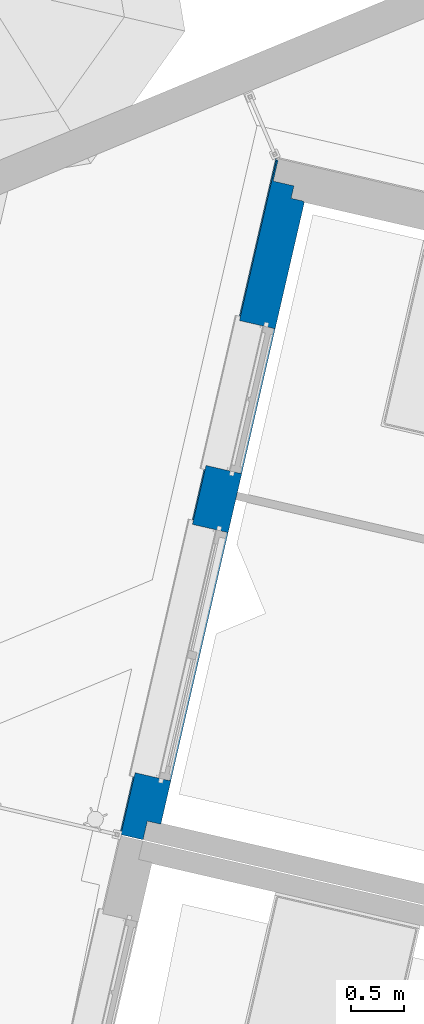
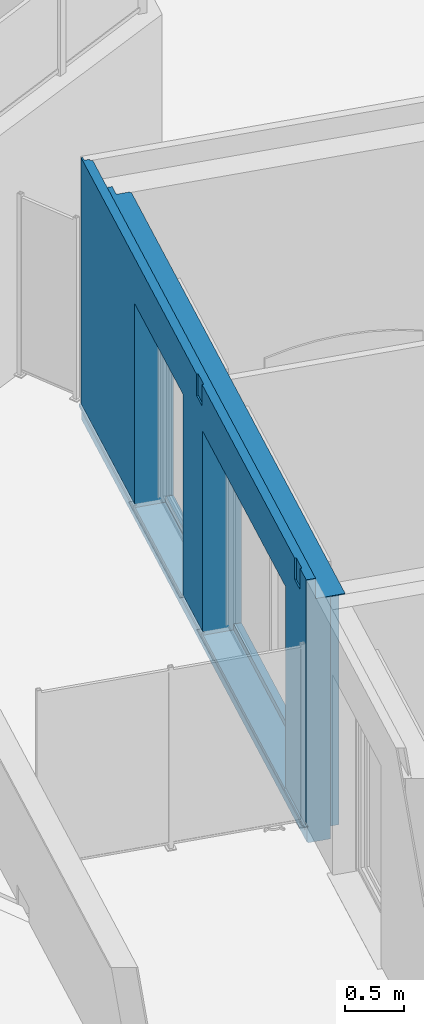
# One storey, part 21 of 119: 1 wall, 2 openings.
"""IFC2X3 building model written with IfcOpenShell, lengths in metres."""

from ifc_helpers import new_model, entity, si_unit, converted_unit, derived_unit, money_unit, direction, frame, origin_with_axes, place, context, subcontext, project, spatial, faceted_brep, material, material_list, type_object, element, save


model = new_model("IFC2X3")

# Units and contexts
model_context = context("Model", 3, precision=1e-05, world=origin_with_axes(), true_north=direction((0.0, 1.0)))
body_context = subcontext(model_context, "Body", "Model", "MODEL_VIEW")
ifc_project = project(units=[si_unit("LENGTHUNIT", "METRE"), si_unit("AREAUNIT", "SQUARE_METRE"), si_unit("VOLUMEUNIT", "CUBIC_METRE"), converted_unit("PLANEANGLEUNIT", "DEGREE", entity("IfcPlaneAngleMeasure", 0.0174532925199), si_unit("PLANEANGLEUNIT", "RADIAN"), dimensions=[0, 0, 0, 0, 0, 0, 0]), si_unit("SOLIDANGLEUNIT", "STERADIAN"), money_unit("EUR"), converted_unit("TIMEUNIT", "Year", entity("IfcTimeMeasure", 31556926.0), si_unit("TIMEUNIT", "SECOND"), dimensions=[0, 0, 1, 0, 0, 0, 0]), si_unit("MASSUNIT", "GRAM", prefix="KILO"), si_unit("THERMODYNAMICTEMPERATUREUNIT", "DEGREE_CELSIUS"), si_unit("LUMINOUSINTENSITYUNIT", "LUMEN"), si_unit("ENERGYUNIT", "JOULE", prefix="MEGA"), derived_unit("THERMALCONDUCTANCEUNIT", [(si_unit("POWERUNIT", "WATT"), 1), (si_unit("LENGTHUNIT", "METRE"), -1), (si_unit("THERMODYNAMICTEMPERATUREUNIT", "KELVIN"), -1)]), derived_unit("SPECIFICHEATCAPACITYUNIT", [(si_unit("ENERGYUNIT", "JOULE"), 1), (si_unit("MASSUNIT", "GRAM", prefix="KILO"), -1), (si_unit("THERMODYNAMICTEMPERATUREUNIT", "KELVIN"), -1)]), derived_unit("MASSDENSITYUNIT", [(si_unit("MASSUNIT", "GRAM", prefix="KILO"), 1), (si_unit("VOLUMEUNIT", "CUBIC_METRE"), -1)])], contexts=[model_context])

# Site, building, storey
site_placement = place(None, origin_with_axes())
site = spatial("IfcSite", under=ifc_project, at=site_placement, Name="Site", CompositionType="ELEMENT")
building_placement = place(site_placement, origin_with_axes())
building = spatial("IfcBuilding", under=site, at=building_placement, Name="Bâtiment", CompositionType="ELEMENT")
storey_placement = place(building_placement, origin_with_axes())
storey = spatial("IfcBuildingStorey", under=building, at=storey_placement, Name="Rez-de-chaussée", CompositionType="ELEMENT", Elevation=0.0)

# Wall, openings
ifc_material_1 = material(Name="Finition int - Plaque de plâtre")
ifc_material_2 = material(Name="Isolation - Polystyrène extrudé")
ifc_material_3 = material(Name="Bloc ELITHERM")
ifc_material_4 = material(Name="Isolation - Polystyrène expansé")
ifc_material_5 = material(Name="Mortier")
ifc_material_6 = material(Name="Béton cellulaire")
ifc_material_7 = material(Name="Etanchéité - Bitume")
ifc_material_8 = material(Name="Finition ext - Crépis")
ifc_material_9 = material(Name="Métal - Aluminium")
ifc_material_list = material_list([ifc_material_1, ifc_material_2, ifc_material_3, ifc_material_4, ifc_material_5, ifc_material_6, ifc_material_7, ifc_material_8, ifc_material_9])
wall_type = type_object("IfcWallType", Name="Mur ALKERN + planelle 21 TERRASSE RDC 356 x 2720", PredefinedType="USERDEFINED")
wall_placement = place(storey_placement, frame((-15.4433655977, 10.3820493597, 0.0), z_axis=(0.0, 0.0, 1.0), x_axis=(-0.224876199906, -0.974387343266, 0.0)))
wall = element("IfcWall", 1, at=wall_placement, inside=storey, type_object=wall_type, material=ifc_material_list, Name="Mue bloc ALKERN isolé", ObjectType="SOLIDWALL", context=body_context, shape_type="Brep", body=[
    faceted_brep([(6.36986443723, 0.344999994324, 0.169414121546), (6.36986443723, 0.344999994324, 0.160000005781), (6.36986443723, 0.344999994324, 0.133633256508), (6.36986443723, 0.344999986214, 0.0), (0.359999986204, 0.344999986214, 0.0), (0.359999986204, 0.344999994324, 0.133633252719), (0.359999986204, 0.344999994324, 0.160000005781), (0.359999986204, 0.344999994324, 0.169414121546), (0.359999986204, 0.344999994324, 0.176532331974), (0.359999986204, 0.344999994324, 0.207793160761), (0.359999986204, 0.344999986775, 2.50955001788), (6.54986443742, 0.344999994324, 2.50955002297), (6.54986443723, 0.344999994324, 2.5), (6.36986443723, 0.344999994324, 2.5), (6.36986443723, 0.344999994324, 0.207793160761), (6.36986443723, 0.344999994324, 0.176532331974), (5.95155419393, 0.344999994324, 2.25), (5.95155419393, 0.344999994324, 2.43), (3.55155419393, 0.344999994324, 2.43), (3.55155419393, 0.344999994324, 2.25), (3.55155419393, 0.344999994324, 0.2), (5.95155419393, 0.344999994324, 0.2), (2.98177863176, 0.344999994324, 2.25), (2.98177863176, 0.344999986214, 2.43), (1.58177863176, 0.344999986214, 2.43), (1.58177863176, 0.344999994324, 2.25), (1.58177863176, 0.344999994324, 0.2), (2.98177863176, 0.344999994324, 0.2), (6.36986443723, 0.335000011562, 0.169414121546), (6.36986443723, 0.335000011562, 0.160000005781), (6.36986443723, 0.335000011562, 0.133633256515), (6.36986443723, 0.335000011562, 0.0), (0.359999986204, 0.335000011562, 0.0), (0.359999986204, 0.335000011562, 0.133633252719), (0.359999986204, 0.335000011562, 0.160000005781), (0.359999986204, 0.335000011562, 0.169414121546), (0.359999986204, 0.335000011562, 0.176532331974), (0.359999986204, 0.335000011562, 0.207793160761), (0.359999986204, 0.335000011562, 2.50955001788), (6.54986443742, 0.335000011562, 2.50955002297), (6.54986443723, 0.335000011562, 2.5), (6.36986443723, 0.335000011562, 2.5), (6.36986443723, 0.335000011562, 0.207793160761), (6.36986443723, 0.335000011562, 0.176532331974), (5.95155419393, 0.335000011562, 2.25), (5.95155419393, 0.335000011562, 2.43), (3.55155419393, 0.335000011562, 2.43), (3.55155419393, 0.335000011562, 2.25), (3.55155419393, 0.335000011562, 0.2), (5.95155419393, 0.335000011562, 0.2), (2.98177863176, 0.335000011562, 2.25), (2.98177863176, 0.335000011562, 2.43), (1.58177863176, 0.335000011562, 2.43), (1.58177863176, 0.335000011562, 2.25), (1.58177863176, 0.335000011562, 0.2), (2.98177863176, 0.335000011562, 0.2)], [[[0, 1, 2, 3, 4, 5, 6, 7, 8, 9, 10, 11, 12, 13, 14, 15], [16, 17, 18, 19, 20, 21], [22, 23, 24, 25, 26, 27]], [[0, 28, 29, 1]], [[2, 1, 29, 30]], [[30, 31, 3, 2]], [[32, 4, 3, 31]], [[33, 5, 4, 32]], [[5, 33, 34, 6]], [[34, 35, 7, 6]], [[8, 7, 35, 36]], [[8, 36, 37, 9]], [[9, 37, 38, 10]], [[39, 11, 10, 38]], [[39, 40, 12, 11]], [[41, 13, 12, 40]], [[42, 14, 13, 41]], [[15, 14, 42, 43]], [[28, 0, 15, 43]], [[44, 45, 17, 16]], [[45, 46, 18, 17]], [[46, 47, 19, 18]], [[48, 20, 19, 47]], [[49, 21, 20, 48]], [[21, 49, 44, 16]], [[23, 22, 50, 51]], [[24, 23, 51, 52]], [[25, 24, 52, 53]], [[25, 53, 54, 26]], [[26, 54, 55, 27]], [[50, 22, 27, 55]], [[38, 37, 36, 35, 34, 33, 32, 31, 30, 29, 28, 43, 42, 41, 40, 39], [45, 44, 49, 48, 47, 46], [51, 50, 55, 54, 53, 52]]]),
    faceted_brep([(1.58177863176, 0.233560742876, 0.2), (1.58177863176, 0.274560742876, 0.2), (1.58177863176, 0.335000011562, 0.2), (1.58177863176, 0.335000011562, 2.25), (1.58177863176, 0.233560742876, 2.25), (1.58177863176, 0.21499997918, 0.2), (1.58177863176, 0.21499997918, 0.14), (1.58177863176, 0.274560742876, 0.14), (2.98177863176, 0.274560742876, 0.2), (2.98177863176, 0.335000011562, 0.2), (0.350000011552, 0.335000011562, 0.0), (0.350000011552, 0.335000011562, 0.133633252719), (0.350000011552, 0.335000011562, 0.160000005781), (0.350000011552, 0.335000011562, 0.169414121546), (0.350000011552, 0.335000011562, 0.176532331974), (0.350000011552, 0.335000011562, 0.207793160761), (0.350000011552, 0.335000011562, 2.50955001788), (6.54986443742, 0.335000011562, 2.50955002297), (6.54986443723, 0.335000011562, 2.5), (6.36986443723, 0.335000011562, 2.5), (6.36986443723, 0.335000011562, 0.207793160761), (6.36986443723, 0.335000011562, 0.176532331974), (6.36986443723, 0.335000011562, 0.169414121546), (6.36986443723, 0.335000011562, 0.160000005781), (6.36986443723, 0.335000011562, 0.133633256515), (6.36986443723, 0.335000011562, 0.0), (3.55155419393, 0.335000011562, 2.25), (3.55155419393, 0.335000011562, 0.2), (5.95155419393, 0.335000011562, 0.2), (5.95155419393, 0.335000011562, 2.25), (5.95155419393, 0.335000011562, 2.43), (3.55155419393, 0.335000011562, 2.43), (2.98177863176, 0.335000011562, 2.25), (2.98177863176, 0.335000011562, 2.43), (1.58177863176, 0.335000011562, 2.43), (1.58177863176, 0.21499997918, 2.43), (1.58177863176, 0.21499997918, 2.25), (0.350000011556, 0.21499997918, 0.160000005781), (0.350000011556, 0.21499997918, 0.133633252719), (0.350000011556, 0.21499997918, 0.0), (6.3698644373, 0.21499997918, 0.0), (6.3698644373, 0.21499997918, 0.133633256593), (6.3698644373, 0.21499997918, 0.160000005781), (6.3698644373, 0.21499997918, 0.169414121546), (6.3698644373, 0.21499997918, 0.176532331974), (6.3698644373, 0.21499997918, 0.207793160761), (6.3698644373, 0.21499997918, 2.5), (6.5498644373, 0.21499997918, 2.5), (6.54986443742, 0.21499997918, 2.50955002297), (0.350000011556, 0.21499997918, 2.50955001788), (0.350000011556, 0.21499997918, 0.207793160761), (0.350000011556, 0.21499997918, 0.176532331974), (0.350000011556, 0.21499997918, 0.169414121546), (5.95155419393, 0.21499997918, 2.43), (5.95155419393, 0.21499997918, 2.25), (5.95155419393, 0.21499997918, 0.2), (5.95155419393, 0.21499997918, 0.14), (3.55155419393, 0.21499997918, 0.14), (3.55155419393, 0.21499997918, 0.2), (3.55155419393, 0.21499997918, 2.25), (3.55155419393, 0.21499997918, 2.43), (2.98177863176, 0.21499997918, 2.43), (2.98177863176, 0.21499997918, 2.25), (2.98177863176, 0.21499997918, 0.2), (2.98177863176, 0.21499997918, 0.14), (2.98177863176, 0.274560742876, 0.14), (2.98177863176, 0.233560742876, 0.2), (2.98177863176, 0.233560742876, 2.25), (3.55155419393, 0.233560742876, 2.25), (3.55155419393, 0.233560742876, 0.2), (3.55155419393, 0.274560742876, 0.2), (5.95155419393, 0.274560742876, 0.2), (5.95155419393, 0.233560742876, 0.2), (5.95155419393, 0.233560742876, 2.25), (5.95155419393, 0.274560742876, 0.14), (3.55155419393, 0.274560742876, 0.14)], [[[0, 1, 2, 3, 4]], [[1, 0, 5, 6, 7]], [[1, 8, 9, 2]], [[10, 11, 12, 13, 14, 15, 16, 17, 18, 19, 20, 21, 22, 23, 24, 25], [26, 27, 28, 29, 30, 31], [3, 2, 9, 32, 33, 34]], [[35, 36, 4, 3, 34]], [[5, 0, 4, 36]], [[37, 38, 39, 40, 41, 42, 43, 44, 45, 46, 47, 48, 49, 50, 51, 52], [53, 54, 55, 56, 57, 58, 59, 60], [6, 5, 36, 35, 61, 62, 63, 64]], [[6, 64, 65, 7]], [[8, 1, 7, 65]], [[8, 66, 67, 32, 9]], [[38, 11, 10, 39]], [[12, 11, 38, 37]], [[13, 12, 37, 52]], [[13, 52, 51, 14]], [[14, 51, 50, 15]], [[15, 50, 49, 16]], [[48, 17, 16, 49]], [[48, 47, 18, 17]], [[46, 19, 18, 47]], [[45, 20, 19, 46]], [[21, 20, 45, 44]], [[22, 21, 44, 43]], [[42, 23, 22, 43]], [[41, 24, 23, 42]], [[41, 40, 25, 24]], [[10, 25, 40, 39]], [[26, 68, 69, 70, 27]], [[70, 71, 28, 27]], [[29, 28, 71, 72, 73]], [[30, 29, 73, 54, 53]], [[30, 53, 60, 31]], [[26, 31, 60, 59, 68]], [[67, 62, 61, 33, 32]], [[33, 61, 35, 34]], [[72, 55, 54, 73]], [[56, 55, 72, 71, 74]], [[57, 56, 74, 75]], [[57, 75, 70, 69, 58]], [[58, 69, 68, 59]], [[66, 63, 62, 67]], [[66, 8, 65, 64, 63]], [[71, 70, 75, 74]]]),
    faceted_brep([(1.58177863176, 0.0160453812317, 0.2), (1.58177863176, 0.214999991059, 0.2), (1.58177863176, 0.214999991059, 2.25), (1.58177863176, 0.203560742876, 2.25), (1.58177863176, 0.015, 2.25), (1.58177863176, 0.015, 0.207793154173), (1.58177863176, 0.0160453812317, 0.207793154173), (1.58177863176, 0.214999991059, 0.14), (1.58177863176, 0.0160453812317, 0.169727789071), (1.58177863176, 0.015, 0.169414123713), (1.58177863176, 0.0150000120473, 0.160000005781), (1.58177863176, 0.015, 0.14), (6.54986443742, 0.214999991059, 2.50955002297), (6.54986444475, 0.214999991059, 2.5), (6.54986444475, 0.214999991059, 0.0), (0.229999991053, 0.214999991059, 0.0), (0.229999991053, 0.214999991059, 0.133633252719), (0.229999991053, 0.214999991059, 0.160000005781), (0.229999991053, 0.214999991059, 0.169414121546), (0.229999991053, 0.214999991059, 0.176532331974), (0.229999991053, 0.214999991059, 0.207793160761), (0.229999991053, 0.214999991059, 2.50955001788), (3.55155419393, 0.214999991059, 0.14), (5.95155419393, 0.214999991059, 0.14), (5.95155419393, 0.214999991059, 0.2), (5.95155419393, 0.214999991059, 2.25), (5.95155419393, 0.214999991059, 2.43), (3.55155419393, 0.214999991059, 2.43), (3.55155419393, 0.214999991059, 2.25), (3.55155419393, 0.214999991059, 0.2), (2.98177863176, 0.214999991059, 0.14), (2.98177863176, 0.214999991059, 0.2), (2.98177863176, 0.214999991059, 2.25), (2.98177863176, 0.214999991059, 2.43), (1.58177863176, 0.214999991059, 2.43), (1.58177863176, 0.203560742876, 2.43), (2.98177863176, 0.203560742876, 2.25), (2.98177863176, 0.015, 2.25), (6.54986444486, 0.015, 2.5), (6.54986443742, 0.015, 2.50955001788), (0.229999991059, 0.015, 2.50955001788), (0.229999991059, 0.015, 0.207793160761), (2.98177863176, 0.015, 0.20779314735), (3.55155419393, 0.015, 0.207793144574), (3.55155419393, 0.015, 2.25), (5.95155419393, 0.015, 2.25), (5.95155419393, 0.015, 0.207793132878), (6.54986444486, 0.015, 0.207793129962), (0.229999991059, 0.0160453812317, 0.207793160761), (0.229999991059, 0.0160453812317, 0.176532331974), (0.229999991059, 0.0160453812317, 0.169727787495), (0.229999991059, 0.015, 0.169414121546), (0.229999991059, 0.0150000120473, 0.160000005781), (0.229999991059, 0.015, 0.133633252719), (0.229999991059, 0.015, 0.0), (6.54986444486, 0.015, 0.0), (6.54986444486, 0.0150000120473, 0.160000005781), (5.95155419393, 0.0150000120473, 0.160000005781), (5.95155419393, 0.0150000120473, 0.14), (3.55155419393, 0.0150000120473, 0.14), (3.55155419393, 0.0150000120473, 0.160000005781), (2.98177863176, 0.0150000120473, 0.160000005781), (2.98177863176, 0.015, 0.14), (6.54986443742, 0.0829999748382, 2.50955002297), (6.54986444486, 0.0160453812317, 0.207793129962), (6.54986444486, 0.0160453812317, 0.169727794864), (6.54986444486, 0.015, 0.169414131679), (0.229999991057, 0.0829999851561, 2.50955001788), (5.95155419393, 0.015, 0.169414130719), (5.95155419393, 0.0160453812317, 0.169727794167), (5.95155419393, 0.0160453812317, 0.2), (5.95155419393, 0.203560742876, 2.25), (5.95155419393, 0.0160453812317, 0.207793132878), (5.95155419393, 0.203560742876, 2.43), (3.55155419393, 0.203560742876, 2.43), (3.55155419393, 0.203560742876, 2.25), (3.55155419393, 0.0160453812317, 0.207793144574), (3.55155419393, 0.0160453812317, 0.2), (3.55155419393, 0.0160453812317, 0.169727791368), (3.55155419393, 0.015, 0.169414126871), (2.98177863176, 0.0160453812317, 0.2), (2.98177863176, 0.015, 0.169414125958), (2.98177863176, 0.0160453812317, 0.169727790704), (2.98177863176, 0.0160453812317, 0.20779314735), (2.98177863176, 0.203560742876, 2.43)], [[[0, 1, 2, 3, 4, 5, 6]], [[7, 1, 0, 8, 9, 10, 11]], [[12, 13, 14, 15, 16, 17, 18, 19, 20, 21], [22, 23, 24, 25, 26, 27, 28, 29], [30, 31, 32, 33, 34, 2, 1, 7]], [[34, 35, 3, 2]], [[36, 37, 4, 3]], [[38, 39, 40, 41, 5, 4, 37, 42, 43, 44, 45, 46, 47]], [[41, 48, 6, 5]], [[8, 0, 6, 48, 49, 50]], [[9, 8, 50, 51]], [[10, 9, 51, 52]], [[11, 10, 52, 53, 54, 55, 56, 57, 58, 59, 60, 61, 62]], [[30, 7, 11, 62]], [[39, 38, 13, 12, 63]], [[14, 13, 38, 47, 64, 65, 66, 56, 55]], [[54, 15, 14, 55]], [[53, 16, 15, 54]], [[53, 52, 17, 16]], [[18, 17, 52, 51]], [[49, 19, 18, 51, 50]], [[19, 49, 48, 20]], [[67, 21, 20, 48, 41, 40]], [[63, 12, 21, 67]], [[58, 23, 22, 59]], [[68, 69, 70, 24, 23, 58, 57]], [[71, 25, 24, 70, 72, 46, 45]], [[26, 25, 71, 73]], [[27, 26, 73, 74]], [[28, 27, 74, 75]], [[43, 76, 77, 29, 28, 75, 44]], [[60, 59, 22, 29, 77, 78, 79]], [[80, 31, 30, 62, 61, 81, 82]], [[31, 80, 83, 42, 37, 36, 32]], [[32, 36, 84, 33]], [[33, 84, 35, 34]], [[3, 35, 84, 36]], [[39, 63, 67, 40]], [[76, 43, 42, 83]], [[75, 71, 45, 44]], [[72, 64, 47, 46]], [[66, 68, 57, 56]], [[81, 61, 60, 79]], [[69, 65, 64, 72, 70]], [[65, 69, 68, 66]], [[71, 75, 74, 73]], [[80, 82, 78, 77, 76, 83]], [[82, 81, 79, 78]]]),
    faceted_brep([(0.0980000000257, 0.0830000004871, 2.51999999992), (0.0980000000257, 0.0830000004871, 2.72), (6.54986443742, 0.0830000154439, 2.72000000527), (6.54986443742, 0.0830000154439, 2.51999998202), (0.0980000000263, 0.0630000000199, 2.72), (0.0980000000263, 0.0630000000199, 2.51999999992), (6.54986443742, 0.0630000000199, 2.72000000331), (6.54986443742, 0.0630000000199, 2.51999999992)], [[[0, 1, 2, 3]], [[4, 1, 0, 5]], [[1, 4, 6, 2]], [[7, 3, 2, 6]], [[5, 0, 3, 7]], [[4, 5, 7, 6]]]),
    faceted_brep([(0.0979999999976, 0.0829999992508, 2.50955), (0.0979999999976, 0.0830000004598, 2.52), (6.54986443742, 0.0830000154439, 2.51999998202), (6.54986443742, 0.0829999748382, 2.50955002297), (0.0979999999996, 0.015, 2.52), (0.0979999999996, 0.015, 2.50955), (6.54986443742, 0.015, 2.52), (6.54986443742, 0.015, 2.50955)], [[[0, 1, 2, 3]], [[4, 1, 0, 5]], [[1, 4, 6, 2]], [[7, 3, 2, 6]], [[5, 0, 3, 7]], [[4, 5, 7, 6]]]),
    faceted_brep([(0.0780000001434, 0.0630000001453, 2.51999999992), (0.0780000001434, 0.0630000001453, 2.72), (6.54986443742, 0.0630000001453, 2.72000000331), (6.54986443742, 0.0630000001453, 2.51999999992), (0.0780000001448, 0.015, 2.72), (0.0780000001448, 0.015, 2.51999999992), (6.54986443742, 0.015, 2.71999999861), (6.54986443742, 0.015, 2.51999999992)], [[[0, 1, 2, 3]], [[4, 1, 0, 5]], [[1, 4, 6, 2]], [[7, 3, 2, 6]], [[5, 0, 3, 7]], [[4, 5, 7, 6]]]),
    faceted_brep([(1.58177863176, 0.005, 0.160000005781), (1.58177863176, 0.0150000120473, 0.160000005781), (0.0300000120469, 0.0150000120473, 0.160000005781), (0.0300000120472, 0.005, 0.160000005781), (1.58177863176, 0.0150000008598, 0.14), (1.58177863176, 0.005, 0.14), (2.98177863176, 0.0150000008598, 0.14), (2.98177863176, 0.0150000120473, 0.160000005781), (3.55155419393, 0.0150000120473, 0.160000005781), (3.55155419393, 0.0150000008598, 0.14), (5.95155419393, 0.0150000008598, 0.14), (5.95155419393, 0.0150000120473, 0.160000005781), (6.54986444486, 0.0150000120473, 0.160000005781), (6.54986444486, 0.0150000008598, 0.01), (0.0300000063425, 0.0149999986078, 0.01), (0.0300000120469, 0.0150000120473, 0.133633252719), (0.0300000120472, 0.005, 0.133633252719), (0.0300000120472, 0.005, 0.01), (6.54986444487, 0.005, 0.01), (6.54986444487, 0.005, 0.160000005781), (5.95155419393, 0.005, 0.160000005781), (5.95155419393, 0.005, 0.14), (3.55155419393, 0.00500000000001, 0.14), (3.55155419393, 0.005, 0.160000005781), (2.98177863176, 0.005, 0.160000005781), (2.98177863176, 0.005, 0.14)], [[[0, 1, 2, 3]], [[4, 1, 0, 5]], [[6, 7, 8, 9, 10, 11, 12, 13, 14, 15, 2, 1, 4]], [[2, 15, 16, 3]], [[5, 0, 3, 16, 17, 18, 19, 20, 21, 22, 23, 24, 25]], [[6, 4, 5, 25]], [[24, 7, 6, 25]], [[7, 24, 23, 8]], [[8, 23, 22, 9]], [[9, 22, 21, 10]], [[11, 10, 21, 20]], [[20, 19, 12, 11]], [[12, 19, 18, 13]], [[13, 18, 17, 14]], [[16, 15, 14, 17]]]),
    faceted_brep([(1.58177863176, 0.0150000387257, 0.2), (1.58177863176, 0.0150000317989, 0.176532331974), (0.0300000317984, 0.0150000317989, 0.176532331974), (0.0300000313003, 0.0150000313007, 0.207793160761), (0.0299999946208, 0.0149999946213, 2.50955), (0.0299999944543, 0.0149999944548, 2.51999999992), (0.0299999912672, 0.0149999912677, 2.72), (3.37372900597, 0.0150000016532, 2.72), (3.37372900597, 0.0150000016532, 2.51999999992), (3.37372900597, 0.0150000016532, 2.50955), (3.37372900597, 0.0150000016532, 2.50872065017), (3.37372900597, 0.0150000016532, 2.5), (3.38872900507, 0.0150000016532, 2.5), (3.40846998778, 0.0150000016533, 2.5), (3.53372900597, 0.0150000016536, 2.5), (3.53372900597, 0.0150000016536, 2.50872065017), (3.53372900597, 0.0150000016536, 2.50955), (3.53372900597, 0.0150000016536, 2.51999999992), (3.53372900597, 0.0150000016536, 2.72), (6.21372900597, 0.0149999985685, 2.72), (6.21372900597, 0.0149999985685, 2.51999999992), (6.21372900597, 0.0149999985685, 2.50955), (6.21372900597, 0.0149999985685, 2.50872065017), (6.21372900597, 0.0149999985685, 2.5), (6.33898802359, 0.0149999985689, 2.5), (6.35872900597, 0.0149999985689, 2.5), (6.37372900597, 0.014999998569, 2.5), (6.37372900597, 0.014999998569, 2.50872065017), (6.37372900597, 0.014999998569, 2.50955), (6.37372900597, 0.014999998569, 2.51999999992), (6.37372900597, 0.014999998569, 2.72), (6.54986443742, 0.0149999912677, 2.71999999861), (6.54986444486, 0.0149999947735, 2.5), (6.54986444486, 0.0150000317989, 0.176532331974), (5.95155419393, 0.0150000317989, 0.176532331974), (5.95155419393, 0.0150000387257, 0.2), (5.95155419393, 0.0150000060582, 2.25), (3.55155419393, 0.0150000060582, 2.25), (3.55155419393, 0.0150000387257, 0.2), (3.55155419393, 0.0150000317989, 0.176532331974), (2.98177863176, 0.0150000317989, 0.176532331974), (2.98177863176, 0.0150000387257, 0.2), (2.98177863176, 0.0150000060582, 2.25), (1.58177863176, 0.0150000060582, 2.25), (1.58177863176, 2.8146551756e-09, 0.2), (1.58177863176, 3.18862092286e-09, 0.176532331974), (0.0300000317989, 3.18862092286e-09, 0.176532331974), (0.0300000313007, 2.69046651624e-09, 0.207793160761), (0.0299999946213, -3.39889680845e-08, 2.50955), (0.0299999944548, -3.41554944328e-08, 2.51999999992), (0.0299999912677, 2.80699907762e-09, 2.72), (3.37372900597, -7.00866920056e-09, 2.72), (3.37372900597, -3.41554944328e-08, 2.51999999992), (3.37372900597, -3.39889680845e-08, 2.50955), (3.37372900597, -3.39757519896e-08, 2.50872065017), (3.37372900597, -3.38367875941e-08, 2.5), (3.38872900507, -3.38367875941e-08, 2.5), (3.40846998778, -3.38367875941e-08, 2.5), (3.53372900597, -3.38367875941e-08, 2.5), (3.53372900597, -3.39757519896e-08, 2.50872065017), (3.53372900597, -3.39889716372e-08, 2.50955), (3.53372900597, -3.41554944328e-08, 2.51999999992), (3.53372900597, -7.47835571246e-09, 2.72), (6.21372900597, -1.53456234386e-08, 2.72), (6.21372900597, -3.41554944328e-08, 2.51999999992), (6.21372900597, -3.39889680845e-08, 2.50955), (6.21372900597, -3.39757555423e-08, 2.50872065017), (6.21372900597, -3.38367875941e-08, 2.5), (6.33898802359, -3.38367911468e-08, 2.5), (6.35872900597, -3.38367875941e-08, 2.5), (6.37372900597, -3.38367875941e-08, 2.5), (6.37372900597, -3.39757555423e-08, 2.50872065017), (6.37372900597, -3.39889680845e-08, 2.50955), (6.37372900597, -3.415549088e-08, 2.51999999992), (6.37372900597, -1.58153028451e-08, 2.72), (6.54986443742, -1.63323612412e-08, 2.71999999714), (6.54986444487, -1.63323576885e-08, 2.5), (6.54986444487, 3.18862092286e-09, 0.176532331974), (5.95155419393, 3.18862092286e-09, 0.176532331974), (5.95155419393, 2.81465162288e-09, 0.2), (5.95155419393, -2.98529378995e-08, 2.25), (3.55155419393, -2.98529343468e-08, 2.25), (3.55155419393, 2.81465162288e-09, 0.2), (3.55155419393, 3.18862092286e-09, 0.176532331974), (2.98177863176, 3.18861737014e-09, 0.176532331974), (2.98177863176, 2.81465162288e-09, 0.2), (2.98177863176, -2.98529343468e-08, 2.25), (1.58177863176, -2.98529343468e-08, 2.25)], [[[0, 1, 2, 3, 4, 5, 6, 7, 8, 9, 10, 11, 12, 13, 14, 15, 16, 17, 18, 19, 20, 21, 22, 23, 24, 25, 26, 27, 28, 29, 30, 31, 32, 33, 34, 35, 36, 37, 38, 39, 40, 41, 42, 43]], [[1, 0, 44, 45]], [[1, 45, 46, 2]], [[47, 3, 2, 46]], [[48, 4, 3, 47]], [[49, 5, 4, 48]], [[50, 6, 5, 49]], [[51, 7, 6, 50]], [[8, 7, 51, 52]], [[8, 52, 53, 9]], [[9, 53, 54, 10]], [[10, 54, 55, 11]], [[56, 12, 11, 55]], [[57, 13, 12, 56]], [[14, 13, 57, 58]], [[59, 15, 14, 58]], [[60, 16, 15, 59]], [[61, 17, 16, 60]], [[62, 18, 17, 61]], [[63, 19, 18, 62]], [[20, 19, 63, 64]], [[20, 64, 65, 21]], [[21, 65, 66, 22]], [[22, 66, 67, 23]], [[68, 24, 23, 67]], [[69, 25, 24, 68]], [[26, 25, 69, 70]], [[71, 27, 26, 70]], [[72, 28, 27, 71]], [[73, 29, 28, 72]], [[74, 30, 29, 73]], [[30, 74, 75, 31]], [[75, 76, 32, 31]], [[77, 33, 32, 76]], [[33, 77, 78, 34]], [[34, 78, 79, 35]], [[80, 36, 35, 79]], [[81, 37, 36, 80]], [[37, 81, 82, 38]], [[82, 83, 39, 38]], [[84, 40, 39, 83]], [[85, 41, 40, 84]], [[41, 85, 86, 42]], [[42, 86, 87, 43]], [[44, 0, 43, 87]], [[45, 44, 87, 86, 85, 84, 83, 82, 81, 80, 79, 78, 77, 76, 75, 74, 73, 72, 71, 70, 69, 68, 67, 66, 65, 64, 63, 62, 61, 60, 59, 58, 57, 56, 55, 54, 53, 52, 51, 50, 49, 48, 47, 46]]]),
    faceted_brep([(1.58177863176, 0.0150000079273, 0.2), (1.58177863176, 0.0160453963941, 0.2), (1.58177863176, 0.0160453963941, 0.207793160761), (1.58177863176, 0.015, 0.207793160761), (1.58177863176, 0.0160453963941, 0.169727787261), (1.58177863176, 0.0150000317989, 0.176532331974), (1.58177863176, 0.015, 0.170774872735), (1.58177863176, -0.0114392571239, 0.162931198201), (1.58177863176, -0.0114392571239, 0.14), (1.58177863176, -0.0102051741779, 0.14), (1.58177863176, -0.0102051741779, 0.161852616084), (1.58177863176, 0.015, 0.169414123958), (0.0310453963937, 0.0160453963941, 0.169727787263), (0.0310453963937, 0.0160453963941, 0.207793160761), (0.0310453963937, 0.015, 0.207793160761), (0.0310453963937, 0.0150000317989, 0.176532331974), (0.0310453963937, 0.015, 0.170774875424), (0.0310453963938, 0.011470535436, 0.169727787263), (0.0299999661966, 0.01041327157, 0.169414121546), (0.0083901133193, -0.0114392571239, 0.162931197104), (0.00479482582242, -0.0114392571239, 0.161852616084), (0.00479482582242, -0.0114392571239, 0.133633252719), (6.54986444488, -0.0114392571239, 0.133633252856), (6.54986444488, -0.0114392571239, 0.162931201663), (5.95155419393, -0.0114392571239, 0.162931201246), (5.95155419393, -0.0114392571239, 0.14), (3.55155419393, -0.0114392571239, 0.14), (3.55155419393, -0.0114392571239, 0.162931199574), (2.98177863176, -0.0114392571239, 0.162931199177), (2.98177863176, -0.0114392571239, 0.14), (2.98177863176, -0.0102051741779, 0.14), (2.98177863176, -0.0102051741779, 0.161852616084), (3.55155419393, -0.0102051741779, 0.161852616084), (3.55155419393, -0.0102051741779, 0.14), (5.95155419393, -0.0102051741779, 0.14), (5.95155419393, -0.0102051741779, 0.161852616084), (6.54986444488, -0.0102051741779, 0.161852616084), (6.54986444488, -0.0102051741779, 0.133633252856), (0.00479482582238, -0.0102051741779, 0.133633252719), (0.00479482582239, -0.0102051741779, 0.161852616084), (0.0299999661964, 0.015, 0.169414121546), (6.54986444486, 0.0160453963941, 0.207793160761), (6.54986444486, 0.015, 0.207793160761), (6.54986444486, 0.0150000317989, 0.176532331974), (6.54986444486, 0.015, 0.17077486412), (6.54986444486, 0.015, 0.169414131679), (6.54986444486, 0.0160453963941, 0.169727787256), (5.95155419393, 0.015, 0.170774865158), (5.95155419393, 0.0150000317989, 0.176532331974), (5.95155419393, 0.0150000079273, 0.2), (5.95155419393, 0.0160453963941, 0.2), (5.95155419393, 0.0160453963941, 0.169727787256), (5.95155419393, 0.015, 0.169414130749), (3.55155419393, 0.015, 0.17077486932), (3.55155419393, 0.015, 0.169414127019), (3.55155419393, 0.0160453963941, 0.169727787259), (3.55155419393, 0.0160453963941, 0.2), (3.55155419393, 0.0150000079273, 0.2), (3.55155419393, 0.0150000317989, 0.176532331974), (2.98177863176, 0.015, 0.170774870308), (2.98177863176, 0.0150000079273, 0.2), (2.98177863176, 0.0160453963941, 0.2), (2.98177863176, 0.0160453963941, 0.16972778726), (2.98177863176, 0.015, 0.169414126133), (2.98177863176, 0.0150000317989, 0.176532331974), (5.95155419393, 0.0160453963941, 0.207793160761), (5.95155419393, 0.015, 0.207793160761), (2.98177863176, 0.0160453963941, 0.207793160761), (3.55155419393, 0.0160453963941, 0.207793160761), (3.55155419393, 0.015, 0.207793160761), (2.98177863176, 0.015, 0.207793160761)], [[[0, 1, 2, 3]], [[4, 1, 0, 5, 6, 7, 8, 9, 10, 11]], [[1, 4, 12, 13, 2]], [[2, 13, 14, 3]], [[5, 0, 3, 14, 15]], [[6, 5, 15, 16]], [[7, 6, 16, 17, 18, 19]], [[8, 7, 19, 20, 21, 22, 23, 24, 25, 26, 27, 28, 29]], [[30, 9, 8, 29]], [[30, 31, 32, 33, 34, 35, 36, 37, 38, 39, 10, 9]], [[11, 10, 39, 40]], [[4, 11, 40, 12]], [[15, 14, 13, 12, 17, 16]], [[18, 17, 12, 40]], [[40, 39, 20, 19, 18]], [[39, 38, 21, 20]], [[21, 38, 37, 22]], [[41, 42, 43, 44, 23, 22, 37, 36, 45, 46]], [[23, 44, 47, 24]], [[35, 34, 25, 24, 47, 48, 49, 50, 51, 52]], [[26, 25, 34, 33]], [[53, 27, 26, 33, 32, 54, 55, 56, 57, 58]], [[59, 28, 27, 53]], [[60, 61, 62, 63, 31, 30, 29, 28, 59, 64]], [[31, 63, 54, 32]], [[45, 36, 35, 52]], [[41, 65, 66, 42]], [[66, 49, 48, 43, 42]], [[44, 43, 48, 47]], [[46, 45, 52, 51]], [[46, 51, 50, 65, 41]], [[66, 65, 50, 49]], [[63, 62, 55, 54]], [[62, 61, 67, 68, 56, 55]], [[68, 69, 57, 56]], [[60, 64, 58, 57, 69, 70]], [[64, 59, 53, 58]], [[61, 60, 70, 67]], [[70, 69, 68, 67]]]),
])
opening_1_placement = place(wall_placement, frame((4.75155419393, 0.0, 0.2), z_axis=(0.0, 0.0, 1.0), x_axis=(1.0, 0.0, 0.0)))
element("IfcOpeningElement", 2, at=opening_1_placement, cuts=wall, Name="MEN 12", context=body_context, shape_type="Brep", body=[
    faceted_brep([(-1.2, 0.834999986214, 0.0), (1.2, 0.834999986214, 0.0), (1.2, 0.233560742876, 0.0), (-1.2, 0.233560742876, 0.0), (-1.2, 0.834999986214, 2.05), (1.2, 0.834999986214, 2.05), (1.2, 0.233560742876, 2.05), (-1.2, 0.233560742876, 2.05)], [[[0, 1, 2, 3]], [[0, 4, 5, 1]], [[1, 5, 6, 2]], [[3, 2, 6, 7]], [[4, 0, 3, 7]], [[5, 4, 7, 6]]]),
    faceted_brep([(-1.2, -0.367878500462, 0.0), (-1.2, -0.367878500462, 2.05), (-1.2, 0.233560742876, 2.05), (-1.2, 0.233560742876, 0.0), (1.2, -0.367878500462, 0.0), (1.2, -0.367878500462, 2.05), (1.2, 0.233560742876, 2.05), (1.2, 0.233560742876, 0.0)], [[[0, 1, 2, 3]], [[0, 4, 5, 1]], [[1, 5, 6, 2]], [[3, 2, 6, 7]], [[4, 0, 3, 7]], [[5, 4, 7, 6]]]),
    faceted_brep([(-1.2, -0.367878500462, 0.0), (-1.2, -0.367878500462, 2.05), (-1.2, 0.233560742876, 2.05), (-1.2, 0.233560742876, 0.0), (1.2, -0.367878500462, 0.0), (1.2, -0.367878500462, 2.05), (1.2, 0.233560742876, 2.05), (1.2, 0.233560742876, 0.0)], [[[0, 1, 2, 3]], [[0, 4, 5, 1]], [[1, 5, 6, 2]], [[3, 2, 6, 7]], [[4, 0, 3, 7]], [[5, 4, 7, 6]]]),
    faceted_brep([(-1.2, 0.804999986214, 2.05), (1.2, 0.804999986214, 2.05), (1.2, 0.203560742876, 2.05), (-1.2, 0.203560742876, 2.05), (-1.2, 0.804999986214, 2.23), (1.2, 0.804999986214, 2.23), (1.2, 0.203560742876, 2.23), (-1.2, 0.203560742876, 2.23)], [[[0, 1, 2, 3]], [[0, 4, 5, 1]], [[1, 5, 6, 2]], [[3, 2, 6, 7]], [[4, 0, 3, 7]], [[5, 4, 7, 6]]]),
    faceted_brep([(-1.2, -0.326878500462, 0.0), (1.2, -0.326878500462, 0.0), (1.2, 0.274560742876, 0.0), (-1.2, 0.274560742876, 0.0), (-1.2, -0.326878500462, -0.06), (1.2, -0.326878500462, -0.06), (1.2, 0.274560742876, -0.06), (-1.2, 0.274560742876, -0.06)], [[[0, 1, 2, 3]], [[0, 4, 5, 1]], [[1, 5, 6, 2]], [[3, 2, 6, 7]], [[4, 0, 3, 7]], [[5, 4, 7, 6]]]),
])
opening_2_placement = place(wall_placement, frame((2.28177863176, 0.0, 0.2), z_axis=(0.0, 0.0, 1.0), x_axis=(1.0, 0.0, 0.0)))
element("IfcOpeningElement", 3, at=opening_2_placement, cuts=wall, Name="MEN 11", context=body_context, shape_type="Brep", body=[
    faceted_brep([(0.7, 0.233560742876, 0.0), (-0.7, 0.233560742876, 0.0), (-0.7, 0.834999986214, 0.0), (0.7, 0.834999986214, 0.0), (0.7, 0.233560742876, 2.05), (-0.7, 0.233560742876, 2.05), (-0.7, 0.834999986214, 2.05), (0.7, 0.834999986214, 2.05)], [[[0, 1, 2, 3]], [[0, 4, 5, 1]], [[1, 5, 6, 2]], [[3, 2, 6, 7]], [[4, 0, 3, 7]], [[5, 4, 7, 6]]]),
    faceted_brep([(0.7, 0.233560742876, 0.0), (0.7, 0.233560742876, 2.05), (0.7, -0.367878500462, 2.05), (0.7, -0.367878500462, 0.0), (-0.7, 0.233560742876, 0.0), (-0.7, 0.233560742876, 2.05), (-0.7, -0.367878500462, 2.05), (-0.7, -0.367878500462, 0.0)], [[[0, 1, 2, 3]], [[0, 4, 5, 1]], [[1, 5, 6, 2]], [[3, 2, 6, 7]], [[4, 0, 3, 7]], [[5, 4, 7, 6]]]),
    faceted_brep([(0.7, 0.233560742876, 0.0), (0.7, 0.233560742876, 2.05), (0.7, -0.367878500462, 2.05), (0.7, -0.367878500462, 0.0), (-0.7, 0.233560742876, 0.0), (-0.7, 0.233560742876, 2.05), (-0.7, -0.367878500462, 2.05), (-0.7, -0.367878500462, 0.0)], [[[0, 1, 2, 3]], [[0, 4, 5, 1]], [[1, 5, 6, 2]], [[3, 2, 6, 7]], [[4, 0, 3, 7]], [[5, 4, 7, 6]]]),
    faceted_brep([(0.7, 0.203560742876, 2.05), (-0.7, 0.203560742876, 2.05), (-0.7, 0.804999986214, 2.05), (0.7, 0.804999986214, 2.05), (0.7, 0.203560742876, 2.23), (-0.7, 0.203560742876, 2.23), (-0.7, 0.804999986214, 2.23), (0.7, 0.804999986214, 2.23)], [[[0, 1, 2, 3]], [[0, 4, 5, 1]], [[1, 5, 6, 2]], [[3, 2, 6, 7]], [[4, 0, 3, 7]], [[5, 4, 7, 6]]]),
    faceted_brep([(0.7, 0.274560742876, 0.0), (-0.7, 0.274560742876, 0.0), (-0.7, -0.326878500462, 0.0), (0.7, -0.326878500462, 0.0), (0.7, 0.274560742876, -0.06), (-0.7, 0.274560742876, -0.06), (-0.7, -0.326878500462, -0.06), (0.7, -0.326878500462, -0.06)], [[[0, 1, 2, 3]], [[0, 4, 5, 1]], [[1, 5, 6, 2]], [[3, 2, 6, 7]], [[4, 0, 3, 7]], [[5, 4, 7, 6]]]),
])

save(model, "model.ifc")
